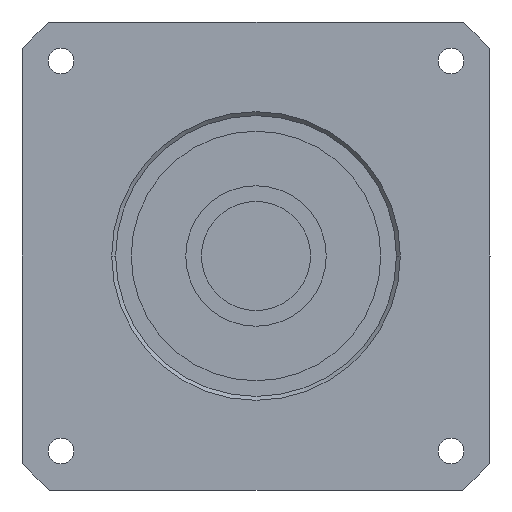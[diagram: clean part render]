
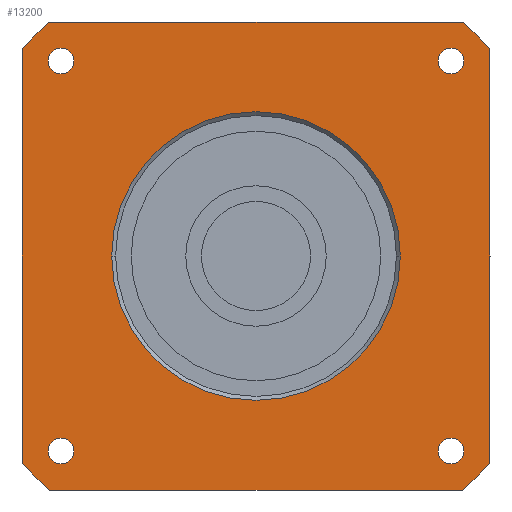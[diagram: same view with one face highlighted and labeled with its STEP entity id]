
A CAD part, left-side view. The second image highlights one B-rep face of the part: STEP entity #13200.
In plain terms, the highlighted planar face has unit normal (-1, 0, 0) as drawn and (0, 0, -1) by its records, which use the part's own axes.
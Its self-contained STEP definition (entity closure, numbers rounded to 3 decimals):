
#8680=CARTESIAN_POINT('',(-25.,-23.35,-39.));
#8690=VERTEX_POINT('',#8680);
#8870=CARTESIAN_POINT('',(-25.,-26.65,-39.));
#8880=VERTEX_POINT('',#8870);
#8910=CARTESIAN_POINT('',(-25.,-25.,-39.));
#8920=DIRECTION('',(0.,0.,-1.));
#8930=DIRECTION('',(0.,-1.,0.));
#8940=AXIS2_PLACEMENT_3D('',#8910,#8920,#8930);
#8950=CIRCLE('',#8940,1.65);
#8960=EDGE_CURVE('',#8690,#8880,#8950,.T.);
#9100=CARTESIAN_POINT('',(25.,26.65,-39.));
#9110=VERTEX_POINT('',#9100);
#9290=CARTESIAN_POINT('',(25.,23.35,-39.));
#9300=VERTEX_POINT('',#9290);
#9330=CARTESIAN_POINT('',(25.,25.,-39.));
#9340=DIRECTION('',(0.,0.,-1.));
#9350=DIRECTION('',(0.,-1.,0.));
#9360=AXIS2_PLACEMENT_3D('',#9330,#9340,#9350);
#9370=CIRCLE('',#9360,1.65);
#9380=EDGE_CURVE('',#9110,#9300,#9370,.T.);
#11720=CARTESIAN_POINT('',(-18.5,0.,-39.));
#11730=VERTEX_POINT('',#11720);
#11760=CARTESIAN_POINT('',(0.,0.,
-39.));
#11770=DIRECTION('',(0.,0.,-1.));
#11780=DIRECTION('',(0.,-1.,0.));
#11790=AXIS2_PLACEMENT_3D('',#11760,#11770,#11780);
#11800=CIRCLE('',#11790,18.5);
#11810=CARTESIAN_POINT('',(0.,-18.5,-39.));
#11820=VERTEX_POINT('',#11810);
#11830=EDGE_CURVE('',#11820,#11730,#11800,.T.);
#11850=CARTESIAN_POINT('',(18.5,0.,-39.));
#11860=VERTEX_POINT('',#11850);
#11870=EDGE_CURVE('',#11860,#11820,#11800,.T.);
#11990=CARTESIAN_POINT('',(0.,-40.,-39.));
#12000=DIRECTION('',(0.,0.,-1.));
#12010=DIRECTION('',(0.,-1.,0.));
#12020=AXIS2_PLACEMENT_3D('',#11990,#12000,#12010);
#12030=PLANE('',#12020);
#12040=CARTESIAN_POINT('',(25.,-25.,-39.));
#12050=DIRECTION('',(0.,0.,-1.));
#12060=DIRECTION('',(0.,-1.,0.));
#12070=AXIS2_PLACEMENT_3D('',#12040,#12050,#12060);
#12080=CIRCLE('',#12070,1.65);
#12090=CARTESIAN_POINT('',(25.,-26.65,-39.));
#12100=VERTEX_POINT('',#12090);
#12110=CARTESIAN_POINT('',(25.,-23.35,-39.));
#12120=VERTEX_POINT('',#12110);
#12130=EDGE_CURVE('',#12100,#12120,#12080,.T.);
#12140=ORIENTED_EDGE('',*,*,#12130,.F.);
#12150=EDGE_CURVE('',#12120,#12100,#12080,.T.);
#12160=ORIENTED_EDGE('',*,*,#12150,.F.);
#12170=EDGE_LOOP('',(#12160,#12140));
#12180=FACE_BOUND('',#12170,.T.);
#12190=EDGE_CURVE('',#9300,#9110,#9370,.T.);
#12200=ORIENTED_EDGE('',*,*,#12190,.F.);
#12210=ORIENTED_EDGE('',*,*,#9380,.F.);
#12220=EDGE_LOOP('',(#12210,#12200));
#12230=FACE_BOUND('',#12220,.T.);
#12240=CARTESIAN_POINT('',(-25.,25.,-39.));
#12250=DIRECTION('',(0.,0.,-1.));
#12260=DIRECTION('',(0.,-1.,0.));
#12270=AXIS2_PLACEMENT_3D('',#12240,#12250,#12260);
#12280=CIRCLE('',#12270,1.65);
#12290=CARTESIAN_POINT('',(-25.,23.35,-39.));
#12300=VERTEX_POINT('',#12290);
#12310=CARTESIAN_POINT('',(-25.,26.65,-39.));
#12320=VERTEX_POINT('',#12310);
#12330=EDGE_CURVE('',#12300,#12320,#12280,.T.);
#12340=ORIENTED_EDGE('',*,*,#12330,.F.);
#12350=EDGE_CURVE('',#12320,#12300,#12280,.T.);
#12360=ORIENTED_EDGE('',*,*,#12350,.F.);
#12370=EDGE_LOOP('',(#12360,#12340));
#12380=FACE_BOUND('',#12370,.T.);
#12390=EDGE_CURVE('',#8880,#8690,#8950,.T.);
#12400=ORIENTED_EDGE('',*,*,#12390,.F.);
#12410=ORIENTED_EDGE('',*,*,#8960,.F.);
#12420=EDGE_LOOP('',(#12410,#12400));
#12430=FACE_BOUND('',#12420,.T.);
#12440=ORIENTED_EDGE('',*,*,#11830,.F.);
#12450=EDGE_CURVE('',#11730,#11860,#11800,.T.);
#12460=ORIENTED_EDGE('',*,*,#12450,.F.);
#12470=ORIENTED_EDGE('',*,*,#11870,.F.);
#12480=EDGE_LOOP('',(#12470,#12460,#12440));
#12490=FACE_BOUND('',#12480,.T.);
#12500=CARTESIAN_POINT('',(-30.,-40.,-39.));
#12510=DIRECTION('',(0.,1.,0.));
#12520=VECTOR('',#12510,1000.);
#12530=LINE('',#12500,#12520);
#12540=CARTESIAN_POINT('',(-30.,-26.458,-39.));
#12550=VERTEX_POINT('',#12540);
#12560=CARTESIAN_POINT('',(-30.,26.458,-39.));
#12570=VERTEX_POINT('',#12560);
#12580=EDGE_CURVE('',#12550,#12570,#12530,.T.);
#12590=ORIENTED_EDGE('',*,*,#12580,.T.);
#12600=CARTESIAN_POINT('',(0.,0.,
-39.));
#12610=DIRECTION('',(0.,0.,1.));
#12620=DIRECTION('',(0.,1.,0.));
#12630=AXIS2_PLACEMENT_3D('',#12600,#12610,#12620);
#12640=CIRCLE('',#12630,40.);
#12650=CARTESIAN_POINT('',(-26.458,-30.,-39.));
#12660=VERTEX_POINT('',#12650);
#12670=EDGE_CURVE('',#12550,#12660,#12640,.T.);
#12680=ORIENTED_EDGE('',*,*,#12670,.F.);
#12690=CARTESIAN_POINT('',(0.,-30.,-39.));
#12700=DIRECTION('',(-1.,0.,0.));
#12710=VECTOR('',#12700,1000.);
#12720=LINE('',#12690,#12710);
#12730=CARTESIAN_POINT('',(26.458,-30.,-39.));
#12740=VERTEX_POINT('',#12730);
#12750=EDGE_CURVE('',#12740,#12660,#12720,.T.);
#12760=ORIENTED_EDGE('',*,*,#12750,.T.);
#12770=CARTESIAN_POINT('',(0.,0.,
-39.));
#12780=DIRECTION('',(0.,0.,1.));
#12790=DIRECTION('',(0.,1.,0.));
#12800=AXIS2_PLACEMENT_3D('',#12770,#12780,#12790);
#12810=CIRCLE('',#12800,40.);
#12820=CARTESIAN_POINT('',(30.,-26.458,-39.));
#12830=VERTEX_POINT('',#12820);
#12840=EDGE_CURVE('',#12740,#12830,#12810,.T.);
#12850=ORIENTED_EDGE('',*,*,#12840,.F.);
#12860=CARTESIAN_POINT('',(30.,-40.,-39.));
#12870=DIRECTION('',(0.,-1.,0.));
#12880=VECTOR('',#12870,1000.);
#12890=LINE('',#12860,#12880);
#12900=CARTESIAN_POINT('',(30.,26.458,-39.));
#12910=VERTEX_POINT('',#12900);
#12920=EDGE_CURVE('',#12910,#12830,#12890,.T.);
#12930=ORIENTED_EDGE('',*,*,#12920,.T.);
#12940=CARTESIAN_POINT('',(0.,0.,
-39.));
#12950=DIRECTION('',(0.,0.,1.));
#12960=DIRECTION('',(0.,1.,0.));
#12970=AXIS2_PLACEMENT_3D('',#12940,#12950,#12960);
#12980=CIRCLE('',#12970,40.);
#12990=CARTESIAN_POINT('',(26.458,30.,-39.));
#13000=VERTEX_POINT('',#12990);
#13010=EDGE_CURVE('',#12910,#13000,#12980,.T.);
#13020=ORIENTED_EDGE('',*,*,#13010,.F.);
#13030=CARTESIAN_POINT('',(0.,30.,-39.));
#13040=DIRECTION('',(1.,0.,0.));
#13050=VECTOR('',#13040,1000.);
#13060=LINE('',#13030,#13050);
#13070=CARTESIAN_POINT('',(-26.458,30.,-39.));
#13080=VERTEX_POINT('',#13070);
#13090=EDGE_CURVE('',#13080,#13000,#13060,.T.);
#13100=ORIENTED_EDGE('',*,*,#13090,.T.);
#13110=CARTESIAN_POINT('',(0.,0.,
-39.));
#13120=DIRECTION('',(0.,0.,1.));
#13130=DIRECTION('',(0.,1.,0.));
#13140=AXIS2_PLACEMENT_3D('',#13110,#13120,#13130);
#13150=CIRCLE('',#13140,40.);
#13160=EDGE_CURVE('',#13080,#12570,#13150,.T.);
#13170=ORIENTED_EDGE('',*,*,#13160,.F.);
#13180=EDGE_LOOP('',(#13170,#13100,#13020,#12930,#12850,#12760,#12680,
#12590));
#13190=FACE_OUTER_BOUND('',#13180,.T.);
#13200=ADVANCED_FACE('',(#12180,#12230,#12380,#12430,#12490,#13190),
#12030,.T.);
